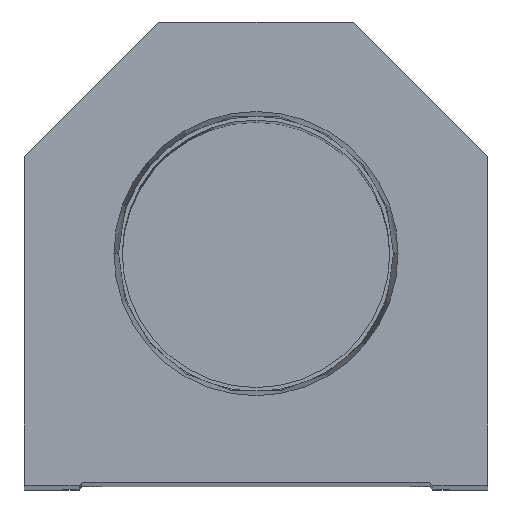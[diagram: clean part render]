
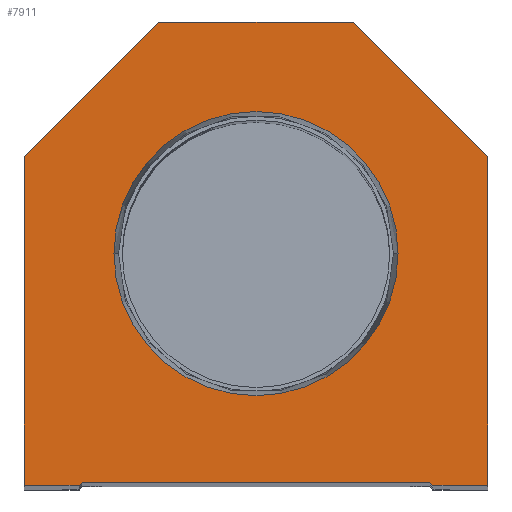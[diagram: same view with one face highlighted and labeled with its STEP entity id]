
A CAD part, top view. The second image highlights one B-rep face of the part: STEP entity #7911.
In plain terms, the highlighted planar face has unit normal (0, 0, 1).
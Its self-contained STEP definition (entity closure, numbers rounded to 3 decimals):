
#254 = ORIENTED_EDGE ( 'NONE', *, *, #1770, .T. ) ;
#413 = DIRECTION ( 'NONE',  ( 1., 0., 0. ) ) ;
#506 = CIRCLE ( 'NONE', #5554, 23.374 ) ;
#520 = VECTOR ( 'NONE', #9763, 1000. ) ;
#528 = DIRECTION ( 'NONE',  ( 0., 0., 1. ) ) ;
#575 = VECTOR ( 'NONE', #2778, 1000. ) ;
#576 = CARTESIAN_POINT ( 'NONE',  ( -23.374, 38.1, 0. ) ) ;
#871 = ORIENTED_EDGE ( 'NONE', *, *, #15196, .T. ) ;
#974 = LINE ( 'NONE', #11423, #575 ) ;
#1026 = VERTEX_POINT ( 'NONE', #14269 ) ;
#1039 = DIRECTION ( 'NONE',  ( 0., 0., 1. ) ) ;
#1770 = EDGE_CURVE ( 'NONE', #10103, #13320, #4045, .T. ) ;
#1851 = ORIENTED_EDGE ( 'NONE', *, *, #19395, .T. ) ;
#1876 = CARTESIAN_POINT ( 'NONE',  ( -14.55, 14.55, 0. ) ) ;
#1953 = VERTEX_POINT ( 'NONE', #14832 ) ;
#2238 = ORIENTED_EDGE ( 'NONE', *, *, #7284, .T. ) ;
#2405 = ORIENTED_EDGE ( 'NONE', *, *, #5667, .T. ) ;
#2778 = DIRECTION ( 'NONE',  ( -0.707, 0.707, 0. ) ) ;
#3192 = DIRECTION ( 'NONE',  ( 0., -1., 0. ) ) ;
#3766 = ORIENTED_EDGE ( 'NONE', *, *, #5017, .T. ) ;
#3959 = DIRECTION ( 'NONE',  ( 0., 0., 1. ) ) ;
#3988 = CARTESIAN_POINT ( 'NONE',  ( -28.6, 0., 0. ) ) ;
#4045 = LINE ( 'NONE', #9299, #21625 ) ;
#4116 = CARTESIAN_POINT ( 'NONE',  ( -29.1, 0., 0. ) ) ;
#4415 = DIRECTION ( 'NONE',  ( 1., 0., 0. ) ) ;
#4713 = CARTESIAN_POINT ( 'NONE',  ( 38.1, 0., 0. ) ) ;
#4848 = EDGE_CURVE ( 'NONE', #17043, #21603, #7942, .T. ) ;
#5017 = EDGE_CURVE ( 'NONE', #20008, #11887, #14380, .T. ) ;
#5554 = AXIS2_PLACEMENT_3D ( 'NONE', #6430, #3959, #20032 ) ;
#5588 = VECTOR ( 'NONE', #18662, 1000. ) ;
#5620 = CARTESIAN_POINT ( 'NONE',  ( 0., 0., 0. ) ) ;
#5667 = EDGE_CURVE ( 'NONE', #13102, #1026, #18507, .T. ) ;
#5869 = EDGE_CURVE ( 'NONE', #16072, #1953, #506, .T. ) ;
#5884 = VERTEX_POINT ( 'NONE', #4713 ) ;
#6362 = CARTESIAN_POINT ( 'NONE',  ( -38.1, 0., 0. ) ) ;
#6430 = CARTESIAN_POINT ( 'NONE',  ( 0., 38.1, 0. ) ) ;
#7284 = EDGE_CURVE ( 'NONE', #13320, #13102, #13453, .T. ) ;
#7416 = VECTOR ( 'NONE', #21302, 1000. ) ;
#7521 = LINE ( 'NONE', #3988, #21604 ) ;
#7911 = ADVANCED_FACE ( 'NONE', ( #8672, #10871 ), #22370, .T. ) ;
#7942 = LINE ( 'NONE', #18584, #520 ) ;
#8334 = CARTESIAN_POINT ( 'NONE',  ( 28.6, 0.5, 0. ) ) ;
#8396 = CARTESIAN_POINT ( 'NONE',  ( -28.6, 0.5, 0. ) ) ;
#8672 = FACE_BOUND ( 'NONE', #19828, .T. ) ;
#9299 = CARTESIAN_POINT ( 'NONE',  ( 16., 76.2, 0. ) ) ;
#9763 = DIRECTION ( 'NONE',  ( 0.707, -0.707, 0. ) ) ;
#9870 = ORIENTED_EDGE ( 'NONE', *, *, #17910, .T. ) ;
#10103 = VERTEX_POINT ( 'NONE', #18526 ) ;
#10655 = ORIENTED_EDGE ( 'NONE', *, *, #22253, .F. ) ;
#10871 = FACE_OUTER_BOUND ( 'NONE', #21176, .T. ) ;
#11423 = CARTESIAN_POINT ( 'NONE',  ( 38.1, 54.1, 0. ) ) ;
#11543 = DIRECTION ( 'NONE',  ( 0., 1., 0. ) ) ;
#11887 = VERTEX_POINT ( 'NONE', #8396 ) ;
#12025 = CARTESIAN_POINT ( 'NONE',  ( -38.1, 54.1, 0. ) ) ;
#12165 = CARTESIAN_POINT ( 'NONE',  ( 28.6, 0., 0. ) ) ;
#12419 = ORIENTED_EDGE ( 'NONE', *, *, #21477, .T. ) ;
#13102 = VERTEX_POINT ( 'NONE', #12025 ) ;
#13320 = VERTEX_POINT ( 'NONE', #17504 ) ;
#13389 = DIRECTION ( 'NONE',  ( 1., 0., 0. ) ) ;
#13453 = LINE ( 'NONE', #15041, #5588 ) ;
#13703 = CARTESIAN_POINT ( 'NONE',  ( 38.1, 0., 0. ) ) ;
#14269 = CARTESIAN_POINT ( 'NONE',  ( -38.1, 0., 0. ) ) ;
#14273 = DIRECTION ( 'NONE',  ( -1., 0., 0. ) ) ;
#14313 = DIRECTION ( 'NONE',  ( 1., 0., 0. ) ) ;
#14380 = LINE ( 'NONE', #1876, #7416 ) ;
#14695 = AXIS2_PLACEMENT_3D ( 'NONE', #5620, #528, #413 ) ;
#14832 = CARTESIAN_POINT ( 'NONE',  ( 23.374, 38.1, 0. ) ) ;
#14890 = VERTEX_POINT ( 'NONE', #16717 ) ;
#15041 = CARTESIAN_POINT ( 'NONE',  ( -38.1, 54.1, 0. ) ) ;
#15196 = EDGE_CURVE ( 'NONE', #21603, #5884, #20897, .T. ) ;
#15832 = CARTESIAN_POINT ( 'NONE',  ( 29.1, 0., 0. ) ) ;
#16072 = VERTEX_POINT ( 'NONE', #576 ) ;
#16392 = LINE ( 'NONE', #13703, #18788 ) ;
#16717 = CARTESIAN_POINT ( 'NONE',  ( 38.1, 54.1, 0. ) ) ;
#16791 = CARTESIAN_POINT ( 'NONE',  ( 0., 38.1, 0. ) ) ;
#17043 = VERTEX_POINT ( 'NONE', #8334 ) ;
#17440 = ORIENTED_EDGE ( 'NONE', *, *, #5869, .F. ) ;
#17504 = CARTESIAN_POINT ( 'NONE',  ( -16., 76.2, 0. ) ) ;
#17910 = EDGE_CURVE ( 'NONE', #11887, #17043, #21887, .T. ) ;
#18106 = CIRCLE ( 'NONE', #22106, 23.374 ) ;
#18244 = CARTESIAN_POINT ( 'NONE',  ( -28.6, 0.5, 0. ) ) ;
#18325 = EDGE_CURVE ( 'NONE', #14890, #10103, #974, .T. ) ;
#18507 = LINE ( 'NONE', #6362, #18617 ) ;
#18526 = CARTESIAN_POINT ( 'NONE',  ( 16., 76.2, 0. ) ) ;
#18584 = CARTESIAN_POINT ( 'NONE',  ( 14.55, 14.55, 0. ) ) ;
#18617 = VECTOR ( 'NONE', #3192, 1000. ) ;
#18662 = DIRECTION ( 'NONE',  ( -0.707, -0.707, 0. ) ) ;
#18788 = VECTOR ( 'NONE', #11543, 1000. ) ;
#19395 = EDGE_CURVE ( 'NONE', #1026, #20008, #7521, .T. ) ;
#19828 = EDGE_LOOP ( 'NONE', ( #10655, #17440 ) ) ;
#20008 = VERTEX_POINT ( 'NONE', #4116 ) ;
#20032 = DIRECTION ( 'NONE',  ( 1., 0., 0. ) ) ;
#20551 = ORIENTED_EDGE ( 'NONE', *, *, #18325, .T. ) ;
#20897 = LINE ( 'NONE', #12165, #21620 ) ;
#21176 = EDGE_LOOP ( 'NONE', ( #1851, #3766, #9870, #21488, #871, #12419, #20551, #254, #2238, #2405 ) ) ;
#21244 = DIRECTION ( 'NONE',  ( 1., 0., 0. ) ) ;
#21302 = DIRECTION ( 'NONE',  ( 0.707, 0.707, 0. ) ) ;
#21477 = EDGE_CURVE ( 'NONE', #5884, #14890, #16392, .T. ) ;
#21488 = ORIENTED_EDGE ( 'NONE', *, *, #4848, .T. ) ;
#21603 = VERTEX_POINT ( 'NONE', #15832 ) ;
#21604 = VECTOR ( 'NONE', #21244, 1000. ) ;
#21620 = VECTOR ( 'NONE', #14313, 1000. ) ;
#21625 = VECTOR ( 'NONE', #14273, 1000. ) ;
#21887 = LINE ( 'NONE', #18244, #21976 ) ;
#21976 = VECTOR ( 'NONE', #13389, 1000. ) ;
#22106 = AXIS2_PLACEMENT_3D ( 'NONE', #16791, #1039, #4415 ) ;
#22253 = EDGE_CURVE ( 'NONE', #1953, #16072, #18106, .T. ) ;
#22370 = PLANE ( 'NONE',  #14695 ) ;
